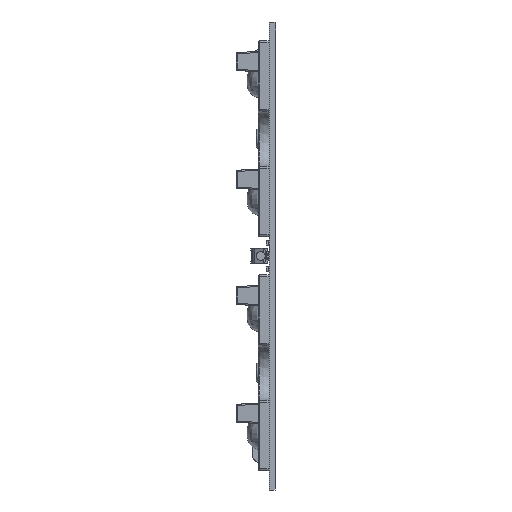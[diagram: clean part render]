
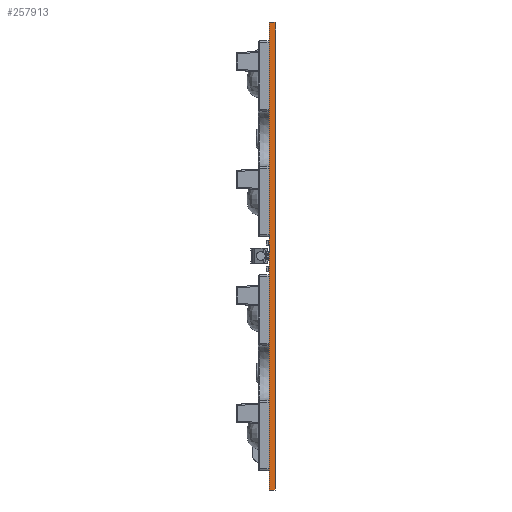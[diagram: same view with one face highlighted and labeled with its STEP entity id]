
A CAD part, left-side view. The second image highlights one B-rep face of the part: STEP entity #257913.
In plain terms, the highlighted planar face has unit normal (-1, 0, 0).
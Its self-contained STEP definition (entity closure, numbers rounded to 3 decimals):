
#4132 = VECTOR ( 'NONE', #252403, 1000. ) ;
#7142 = FACE_OUTER_BOUND ( 'NONE', #130891, .T. ) ;
#30783 = DIRECTION ( 'NONE',  ( 0., 0., 1. ) ) ;
#39427 = LINE ( 'NONE', #50718, #252854 ) ;
#43891 = VERTEX_POINT ( 'NONE', #77845 ) ;
#48806 = EDGE_CURVE ( 'NONE', #43891, #157665, #39427, .T. ) ;
#50718 = CARTESIAN_POINT ( 'NONE',  ( 0., 0., -120. ) ) ;
#59240 = LINE ( 'NONE', #169279, #4132 ) ;
#60052 = EDGE_CURVE ( 'NONE', #113755, #157665, #59240, .T. ) ;
#64706 = DIRECTION ( 'NONE',  ( 0., 0., 1. ) ) ;
#67214 = EDGE_CURVE ( 'NONE', #68993, #43891, #266674, .T. ) ;
#68993 = VERTEX_POINT ( 'NONE', #114823 ) ;
#77845 = CARTESIAN_POINT ( 'NONE',  ( 0., 0., -120. ) ) ;
#88078 = ORIENTED_EDGE ( 'NONE', *, *, #48806, .F. ) ;
#105308 = PLANE ( 'NONE',  #219056 ) ;
#113755 = VERTEX_POINT ( 'NONE', #183494 ) ;
#114823 = CARTESIAN_POINT ( 'NONE',  ( 0., -1.5, -120. ) ) ;
#126044 = CARTESIAN_POINT ( 'NONE',  ( 0., -1.5, -120. ) ) ;
#130891 = EDGE_LOOP ( 'NONE', ( #88078, #153704, #237163, #207809 ) ) ;
#137268 = CARTESIAN_POINT ( 'NONE',  ( 0., -1.5, -120. ) ) ;
#147714 = DIRECTION ( 'NONE',  ( 0., 1., 0. ) ) ;
#153704 = ORIENTED_EDGE ( 'NONE', *, *, #67214, .F. ) ;
#156675 = VECTOR ( 'NONE', #147714, 1000. ) ;
#157665 = VERTEX_POINT ( 'NONE', #220156 ) ;
#158126 = DIRECTION ( 'NONE',  ( 0., 0., 1. ) ) ;
#165392 = EDGE_CURVE ( 'NONE', #68993, #113755, #266330, .T. ) ;
#169279 = CARTESIAN_POINT ( 'NONE',  ( 0., -1.5, 0. ) ) ;
#183494 = CARTESIAN_POINT ( 'NONE',  ( 0., -1.5, 0. ) ) ;
#188490 = DIRECTION ( 'NONE',  ( -1., 0., 0. ) ) ;
#188576 = CARTESIAN_POINT ( 'NONE',  ( 0., -1.5, -120. ) ) ;
#207809 = ORIENTED_EDGE ( 'NONE', *, *, #60052, .T. ) ;
#211466 = VECTOR ( 'NONE', #158126, 1000. ) ;
#219056 = AXIS2_PLACEMENT_3D ( 'NONE', #126044, #188490, #64706 ) ;
#220156 = CARTESIAN_POINT ( 'NONE',  ( 0., 0., 0. ) ) ;
#237163 = ORIENTED_EDGE ( 'NONE', *, *, #165392, .T. ) ;
#252403 = DIRECTION ( 'NONE',  ( 0., 1., 0. ) ) ;
#252854 = VECTOR ( 'NONE', #30783, 1000. ) ;
#257913 = ADVANCED_FACE ( 'NONE', ( #7142 ), #105308, .T. ) ;
#266330 = LINE ( 'NONE', #137268, #211466 ) ;
#266674 = LINE ( 'NONE', #188576, #156675 ) ;
